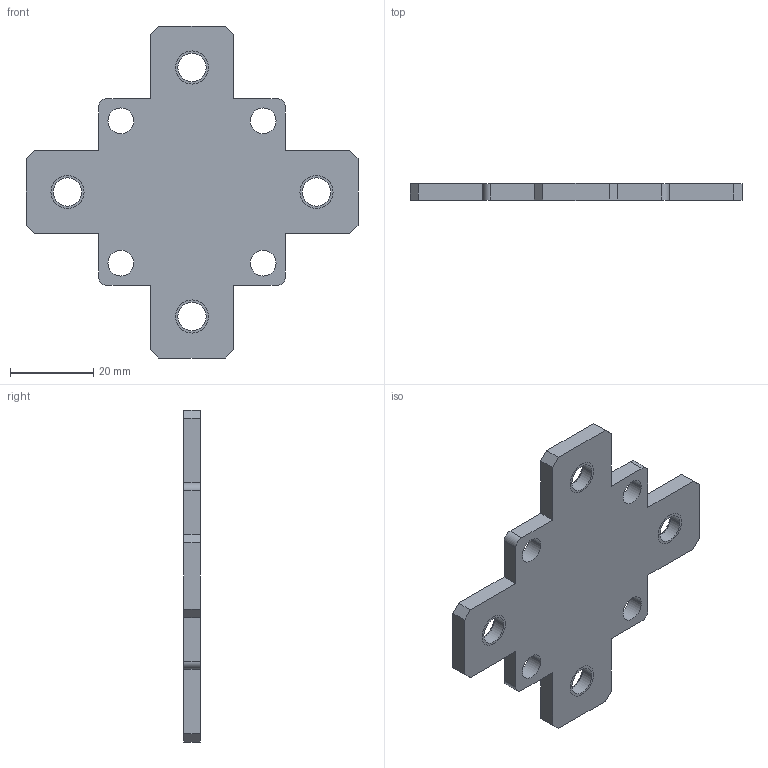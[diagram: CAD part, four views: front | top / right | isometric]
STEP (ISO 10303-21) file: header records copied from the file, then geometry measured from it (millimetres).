
FILE_DESCRIPTION((''),'2;1');
FILE_NAME('GIC9010','2002-12-27T',('Lipro doo'),('Lipro d.o.o.'),'PRO/ENGINEER BY PARAMETRIC TECHNOLOGY CORPORATION, 2001150','PRO/ENGINEER BY PARAMETRIC TECHNOLOGY CORPORATION, 2001150','');
FILE_SCHEMA(('CONFIG_CONTROL_DESIGN'));
Length unit declared in the file: millimetre
Products named in the file (1): GIC9010
Bounding box: 80 x 4 x 80 mm (x, y, z)
Volume: 12524.7 mm3; surface area: 8499.5 mm2
Topology: 1 solids, 5 shells, 66 faces, 184 edges, 120 vertices
Faces by surface type: plane 30, cylinder 28, cone 8
Entity records: 2195 total; most frequent: DIRECTION 382, CARTESIAN_POINT 371, ORIENTED_EDGE 352, EDGE_CURVE 184, AXIS2_PLACEMENT_3D 131, VECTOR 120, LINE 120, VERTEX_POINT 120
